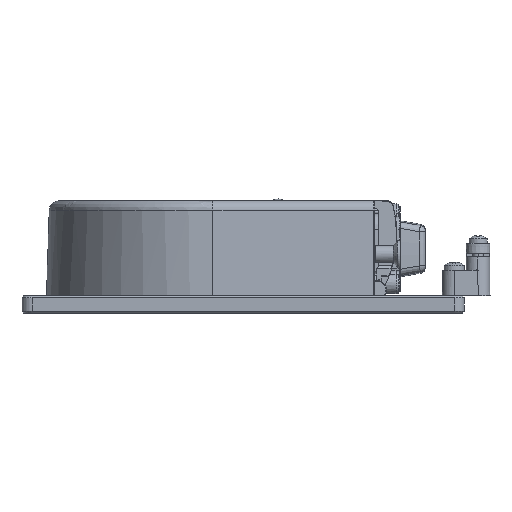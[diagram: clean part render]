
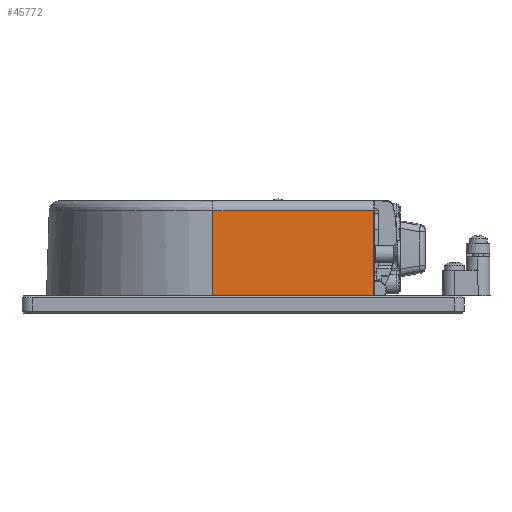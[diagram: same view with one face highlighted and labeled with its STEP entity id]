
A CAD part, left-side view. The second image highlights one B-rep face of the part: STEP entity #45772.
In plain terms, the highlighted planar face has unit normal (-0.999, 0, 0.035).
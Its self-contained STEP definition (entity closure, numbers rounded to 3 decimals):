
#198 = CARTESIAN_POINT ( 'NONE',  ( -56., 25., 0. ) ) ;
#710 = DIRECTION ( 'NONE',  ( 0.035, 0., 0.999 ) ) ;
#4205 = DIRECTION ( 'NONE',  ( 0.035, 0., 0.999 ) ) ;
#4259 = VECTOR ( 'NONE', #710, 1000. ) ;
#5482 = DIRECTION ( 'NONE',  ( 0., -1., 0. ) ) ;
#5792 = LINE ( 'NONE', #198, #21129 ) ;
#9477 = CARTESIAN_POINT ( 'NONE',  ( -56., 25., 0. ) ) ;
#9894 = VERTEX_POINT ( 'NONE', #43063 ) ;
#15894 = VECTOR ( 'NONE', #28355, 1000. ) ;
#16024 = VERTEX_POINT ( 'NONE', #26514 ) ;
#21129 = VECTOR ( 'NONE', #5482, 1000. ) ;
#22565 = ORIENTED_EDGE ( 'NONE', *, *, #34706, .T. ) ;
#26514 = CARTESIAN_POINT ( 'NONE',  ( -56., -22.3, 0. ) ) ;
#28355 = DIRECTION ( 'NONE',  ( 0., 1., 0. ) ) ;
#29241 = VECTOR ( 'NONE', #57725, 1000. ) ;
#33877 = DIRECTION ( 'NONE',  ( -0.999, 0., 0.035 ) ) ;
#34578 = AXIS2_PLACEMENT_3D ( 'NONE', #9477, #33877, #4205 ) ;
#34706 = EDGE_CURVE ( 'NONE', #39157, #9894, #36667, .T. ) ;
#35454 = CARTESIAN_POINT ( 'NONE',  ( -55.123, -22.3, 25.105 ) ) ;
#36571 = LINE ( 'NONE', #40874, #4259 ) ;
#36667 = LINE ( 'NONE', #37629, #29241 ) ;
#37629 = CARTESIAN_POINT ( 'NONE',  ( -56., 25., 0. ) ) ;
#38193 = ORIENTED_EDGE ( 'NONE', *, *, #58970, .T. ) ;
#38645 = EDGE_CURVE ( 'NONE', #64049, #39157, #63607, .T. ) ;
#39157 = VERTEX_POINT ( 'NONE', #46152 ) ;
#40646 = ORIENTED_EDGE ( 'NONE', *, *, #62489, .T. ) ;
#40714 = ORIENTED_EDGE ( 'NONE', *, *, #38645, .T. ) ;
#40874 = CARTESIAN_POINT ( 'NONE',  ( -55.123, -22.3, 25.105 ) ) ;
#43063 = CARTESIAN_POINT ( 'NONE',  ( -56., 25., 0. ) ) ;
#43397 = FACE_OUTER_BOUND ( 'NONE', #46617, .T. ) ;
#44025 = PLANE ( 'NONE',  #34578 ) ;
#45772 = ADVANCED_FACE ( 'NONE', ( #43397 ), #44025, .T. ) ;
#46152 = CARTESIAN_POINT ( 'NONE',  ( -55.123, 25., 25.105 ) ) ;
#46617 = EDGE_LOOP ( 'NONE', ( #40646, #38193, #40714, #22565 ) ) ;
#52737 = CARTESIAN_POINT ( 'NONE',  ( -55.123, 25., 25.105 ) ) ;
#57725 = DIRECTION ( 'NONE',  ( -0.035, 0., -0.999 ) ) ;
#58970 = EDGE_CURVE ( 'NONE', #16024, #64049, #36571, .T. ) ;
#62489 = EDGE_CURVE ( 'NONE', #9894, #16024, #5792, .T. ) ;
#63607 = LINE ( 'NONE', #52737, #15894 ) ;
#64049 = VERTEX_POINT ( 'NONE', #35454 ) ;
